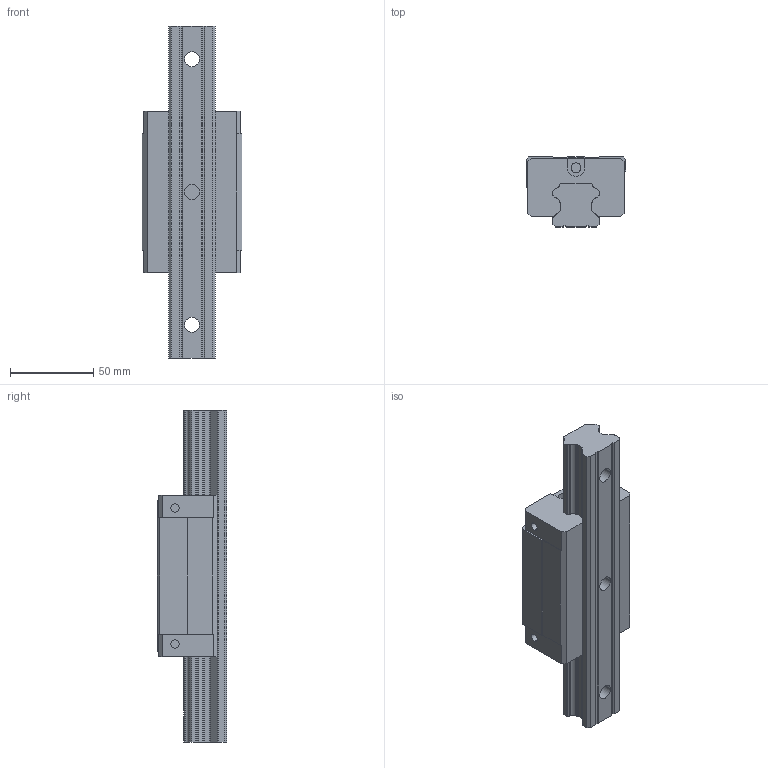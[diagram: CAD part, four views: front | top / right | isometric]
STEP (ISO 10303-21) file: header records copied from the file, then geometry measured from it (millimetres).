
FILE_DESCRIPTION((''),'2;1');
FILE_NAME('HGL30CA_ASM','2008-07-11T',('immo'),(''),'PRO/ENGINEER BY PARAMETRIC TECHNOLOGY CORPORATION, 2004360','PRO/ENGINEER BY PARAMETRIC TECHNOLOGY CORPORATION, 2004360','');
FILE_SCHEMA(('CONFIG_CONTROL_DESIGN'));
Length unit declared in the file: millimetre
Products named in the file (7): HGH30_1; HGR30_1; HGH30_ASM_2_ASM_ASM_ASM_ASM; HGH30C_ASM_ASM_ASM_ASM; HGL30C_ASM_ASM_ASM; HGL30C_ASM_ASM; HGL30CA_ASM
Assembly tree (6 placements, depth 6):
  HGL30CA_ASM
    HGL30C_ASM_ASM
      HGL30C_ASM_ASM_ASM
        HGH30C_ASM_ASM_ASM_ASM
          HGH30_ASM_2_ASM_ASM_ASM_ASM
            HGH30_1
            HGR30_1
Bounding box: 60 x 42 x 200 mm (x, y, z)
Volume: 271094.5 mm3; surface area: 53336.1 mm2
Topology: 2 solids, 2 shells, 205 faces, 620 edges, 436 vertices
Faces by surface type: plane 119, cylinder 86
Entity records: 7303 total; most frequent: CARTESIAN_POINT 1279, DIRECTION 1246, ORIENTED_EDGE 1240, EDGE_CURVE 620, VECTOR 440, LINE 440, VERTEX_POINT 436, AXIS2_PLACEMENT_3D 403
